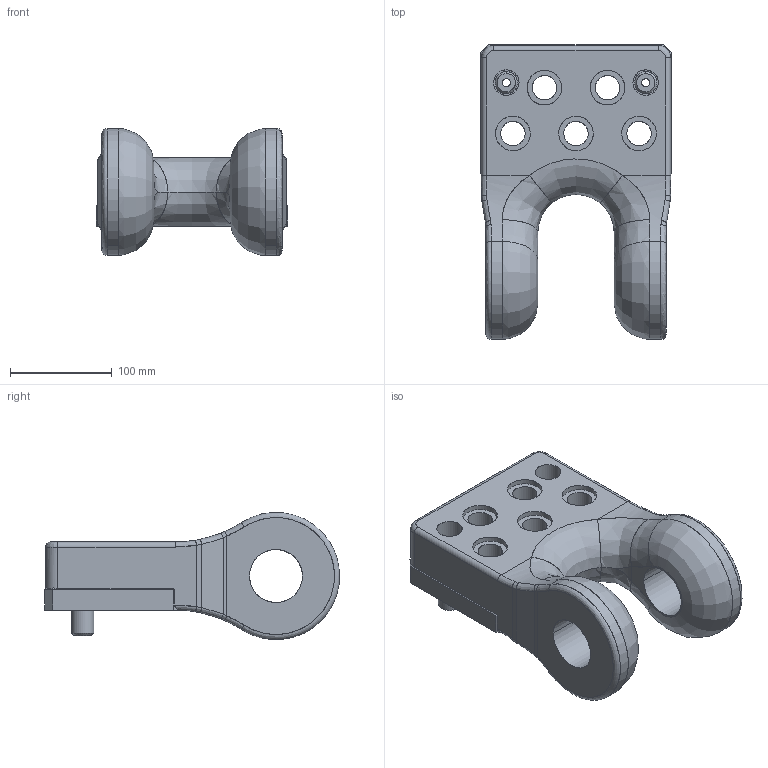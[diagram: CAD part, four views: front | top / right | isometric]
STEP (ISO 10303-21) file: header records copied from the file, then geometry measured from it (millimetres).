
FILE_DESCRIPTION(('CATIA V5 STEP Exchange'),'2;1');
FILE_NAME('C:\Users\Utente\Desktop\3D files 395S\395S-08000.stp','2020-04-10T05:50:41+00:00',('none'),('none'),'CATIA Version 5 Release 20 GA (IN-10)','CATIA V5 STEP AP203','none');
FILE_SCHEMA(('CONFIG_CONTROL_DESIGN'));
Length unit declared in the file: millimetre
Products named in the file (1): 395S-08000
Bounding box: 188 x 289.93 x 124.83 mm (x, y, z)
Surface area: 217428.4 mm2 (no closed solid volume)
Topology: 0 solids, 141 shells, 141 faces, 659 edges, 663 vertices
Faces by surface type: cylinder 61, plane 36, revolution 28, bspline 16
Entity records: 9777 total; most frequent: CARTESIAN_POINT 4928, DIRECTION 664, ORIENTED_EDGE 656, EDGE_CURVE 656, VERTEX_POINT 656, AXIS2_PLACEMENT_3D 327, B_SPLINE_CURVE_WITH_KNOTS 245, CIRCLE 229
